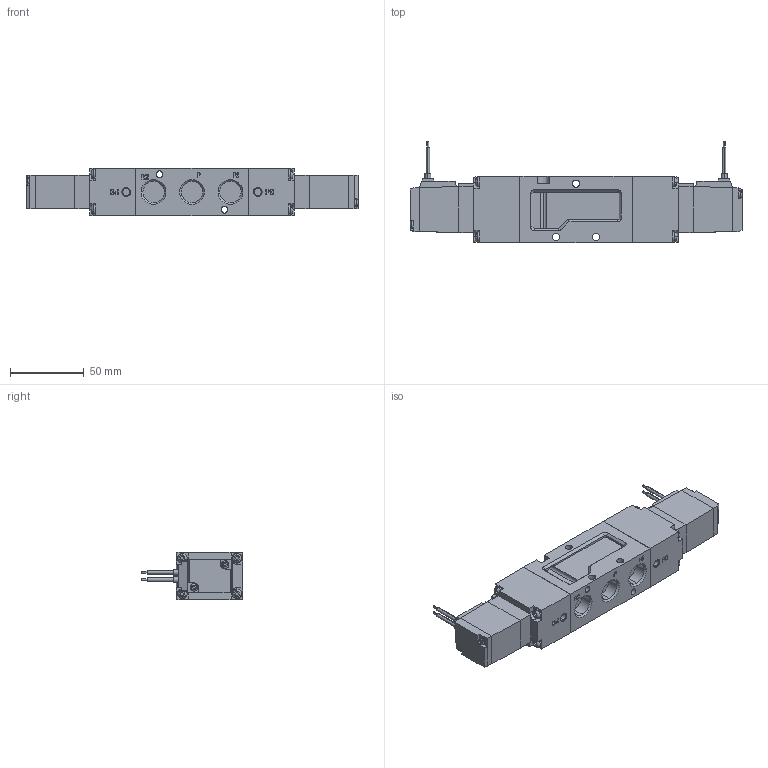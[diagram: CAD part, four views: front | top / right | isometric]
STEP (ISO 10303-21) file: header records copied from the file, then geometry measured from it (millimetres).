
FILE_DESCRIPTION (( 'STEP AP203' ), '1' );
FILE_NAME ('RKD(E¡BO)3450-03-#-L.STEP', '2016-02-17T01:09:59', ( 'Sam Lin' ), ( '' ), 'SwSTEP 2.0', 'SolidWorks 2013', '' );
FILE_SCHEMA (( 'CONFIG_CONTROL_DESIGN' ));
Length unit declared in the file: metre
Products named in the file (10): PILOT_COVER; PILOT_COVER_1; ADAPTER_SV330; RKD(E、O)3450-03-#-L; ADAPTER_SV330_1; BODY_SV300; COIL_ASM; COIL_ASM_1; PILOT_BODY; PILOT_BODY_1
Assembly tree (9 placements, depth 2):
  RKD(E、O)3450-03-#-L
    ADAPTER_SV330
    ADAPTER_SV330_1
    BODY_SV300
    COIL_ASM
    COIL_ASM_1
    PILOT_BODY
    PILOT_BODY_1
    PILOT_COVER
    PILOT_COVER_1
Bounding box: 224.6 x 68.8 x 32 mm (x, y, z)
Volume: 243348.9 mm3; surface area: 54789.2 mm2
Topology: 9 solids, 9 shells, 844 faces, 2260 edges, 1486 vertices
Faces by surface type: plane 601, cylinder 175, torus 44, cone 20, bspline 4
Entity records: 29241 total; most frequent: CARTESIAN_POINT 7200, ORIENTED_EDGE 4520, DIRECTION 4121, EDGE_CURVE 2260, VECTOR 1531, LINE 1531, VERTEX_POINT 1486, AXIS2_PLACEMENT_3D 1295
